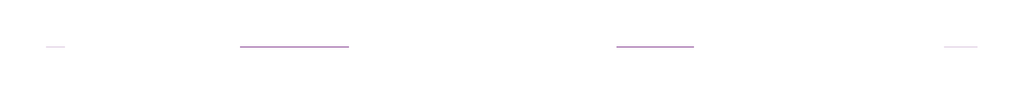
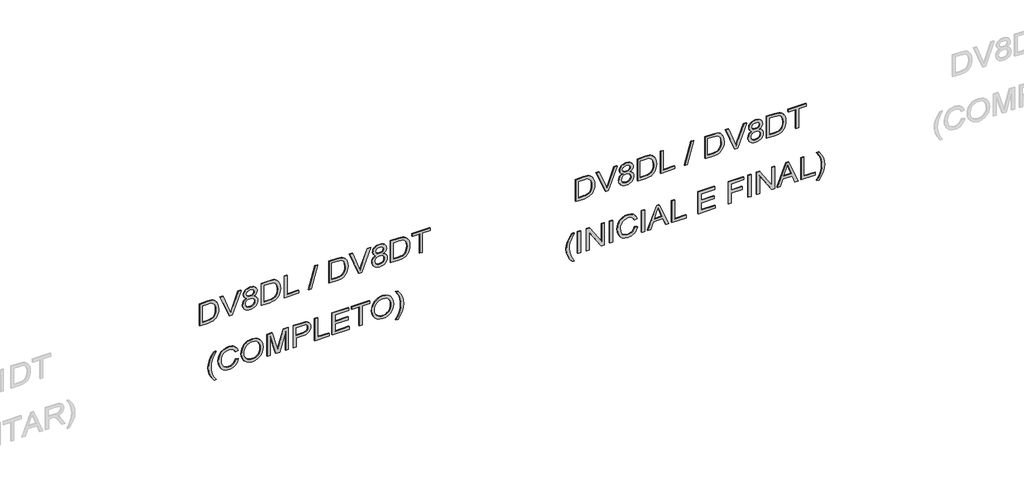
# One storey, part 3 of 7: 2 proxies.
"""IFC4 building model written with IfcOpenShell, lengths in millimetres."""

import ifcopenshell
import ifcopenshell.guid

model = None  # the IFC model being written
_history = None  # IfcOwnerHistory: only IFC2X3 demands one
_inside = {}  # id of a spatial element -> (the spatial element, [elements in it])
_under = {}  # id of a project, library or spatial element -> (it, [spatial elements below it])
_declared = {}  # id of a project -> (the project, [libraries it declares])
_typed = {}  # id of a type object -> (the type object, [elements of that type])
_made_of = {}  # id of a material, layer set ... -> (it, [elements and type objects made of it])


def new_model(schema):
    """Start an empty IFC model of exactly this schema.

    Asked for "IFC4X3", IfcOpenShell would pick the latest addendum, in which some entities
    have other attributes; the version numbers below select the first issue.
    IFC2X3 requires an IfcOwnerHistory on every rooted entity: one is made here for all.
    """
    global model, _history
    if schema == "IFC4X3":
        model = ifcopenshell.file(schema_version=(4, 3, 0, 0))
    else:
        model = ifcopenshell.file(schema=schema)
    _inside.clear()
    _under.clear()
    _declared.clear()
    _typed.clear()
    _made_of.clear()
    _history = None
    if model.schema == "IFC2X3":
        org = make("IfcOrganization", Name="unknown")
        user = make(
            "IfcPersonAndOrganization",
            ThePerson=make("IfcPerson", FamilyName="unknown"),
            TheOrganization=org,
        )
        app = make(
            "IfcApplication",
            ApplicationDeveloper=org,
            Version="unknown",
            ApplicationFullName="unknown",
            ApplicationIdentifier="unknown",
        )
        _history = make(
            "IfcOwnerHistory",
            OwningUser=user,
            OwningApplication=app,
            ChangeAction="ADDED",
            CreationDate=0,
        )
    return model


def make(cls, **values):
    """One entity of the class cls with the attributes given. An attribute that is None is left unset."""
    return model.create_entity(
        cls, **{name: value for name, value in values.items() if value is not None}
    )


def rooted(cls, **values):
    """An entity with a GlobalId (a new one), such as an element, a storey or a relation."""
    return make(cls, GlobalId=ifcopenshell.guid.new(), OwnerHistory=_history, **values)


def si_unit(unit_type, name, prefix=None):
    """IfcSIUnit, for example si_unit("LENGTHUNIT", "METRE", prefix="MILLI")."""
    return make("IfcSIUnit", UnitType=unit_type, Prefix=prefix, Name=name)


def assignment(units):
    """IfcUnitAssignment: the units of a project."""
    return None if units is None else make("IfcUnitAssignment", Units=units)


def point(xyz):
    """IfcCartesianPoint."""
    return None if xyz is None else make("IfcCartesianPoint", Coordinates=xyz)


def direction(xyz):
    """IfcDirection."""
    return None if xyz is None else make("IfcDirection", DirectionRatios=xyz)


def frame(location, z_axis=None, x_axis=None):
    """IfcAxis2Placement3D, a coordinate frame: its origin and axes. An axis left out is left unset."""
    return make(
        "IfcAxis2Placement3D",
        Location=point(location),
        Axis=direction(z_axis),
        RefDirection=direction(x_axis),
    )


def origin():
    """The frame at (0, 0, 0) with its axes left unset."""
    return frame((0.0, 0.0, 0.0))


def place(relative_to, where):
    """IfcLocalPlacement: puts the frame where relative to a parent placement (None: the world)."""
    return make(
        "IfcLocalPlacement", PlacementRelTo=relative_to, RelativePlacement=where
    )


def context(
    kind, dimensions, precision=None, world=None, true_north=None, identifier=None
):
    """IfcGeometricRepresentationContext, for example the 3D "Model" context."""
    return make(
        "IfcGeometricRepresentationContext",
        ContextIdentifier=identifier,
        ContextType=kind,
        CoordinateSpaceDimension=dimensions,
        Precision=precision,
        WorldCoordinateSystem=world,
        TrueNorth=true_north,
    )


def project(units=None, contexts=None):
    """IfcProject with its units and contexts."""
    return rooted(
        "IfcProject",
        Name="project",
        RepresentationContexts=contexts,
        UnitsInContext=assignment(units),
    )


def spatial(cls, under=None, at=None, **own):
    """A site, building, storey or space (cls), placed at a placement, below another one or the project."""
    s = rooted(cls, ObjectPlacement=at, **own)
    if under is not None:
        _under.setdefault(under.id(), (under, []))[1].append(s)
    return s


def polyline(points):
    """IfcPolyline through the points."""
    return make("IfcPolyline", Points=[point(p) for p in points])


def outline(outer, holes=None, kind="AREA"):
    """IfcArbitraryClosedProfileDef: a profile drawn as a closed curve; with holes, ...WithVoids."""
    if holes is None:
        return make("IfcArbitraryClosedProfileDef", ProfileType=kind, OuterCurve=outer)
    return make(
        "IfcArbitraryProfileDefWithVoids",
        ProfileType=kind,
        OuterCurve=outer,
        InnerCurves=holes,
    )


def extrude(swept, where, along, depth):
    """IfcExtrudedAreaSolid: the profile swept, set in the frame where, extruded along a direction by depth."""
    return make(
        "IfcExtrudedAreaSolid",
        SweptArea=swept,
        Position=where,
        ExtrudedDirection=direction(along),
        Depth=depth,
    )


def shape(context_of_items, identifier, shape_type, items):
    """IfcShapeRepresentation: the items that make up one representation, for example the "Body"."""
    return make(
        "IfcShapeRepresentation",
        ContextOfItems=context_of_items,
        RepresentationIdentifier=identifier,
        RepresentationType=shape_type,
        Items=items,
    )


def made_of(thing, what):
    """Note that an element or type object is made of a material, layer set ...; save() writes the relation."""
    if what is not None:
        _made_of.setdefault(what.id(), (what, []))[1].append(thing)
    return thing


def element(
    cls,
    number,
    at=None,
    inside=None,
    cuts=None,
    type_object=None,
    material=None,
    context=None,
    identifier="Body",
    shape_type=None,
    held_by="IfcProductDefinitionShape",
    body=None,
    shapes=None,
    **own,
):
    """One element of the class cls, such as IfcWall. Its Tag is "e" and its number.

    at: its placement. inside: the storey or other place that contains it. cuts: it is an
    opening in that element (IfcRelVoidsElement). A single representation is given by context,
    identifier, shape_type and body (its items); several are given by shapes. held_by: the class
    of the entity that holds the representations. save() writes the other relations.
    """
    e = rooted(cls, Tag="e%d" % number, ObjectPlacement=at, **own)
    if body is not None:
        shapes = [shape(context, identifier, shape_type, body)]
    if shapes is not None:
        e.Representation = make(held_by, Representations=shapes)
    if inside is not None:
        _inside.setdefault(inside.id(), (inside, []))[1].append(e)
    if cuts is not None:
        rooted(
            "IfcRelVoidsElement", RelatingBuildingElement=cuts, RelatedOpeningElement=e
        )
    if type_object is not None:
        _typed.setdefault(type_object.id(), (type_object, []))[1].append(e)
    return made_of(e, material)


def aggregate(whole, parts):
    """IfcRelAggregates: a whole, such as a stair, and the parts it consists of."""
    return rooted("IfcRelAggregates", RelatingObject=whole, RelatedObjects=parts)


def save(model, path):
    """Write the relations noted so far, then the file.

    IfcRelAggregates (storeys below a building ...), IfcRelContainedInSpatialStructure (elements
    in a storey), IfcRelDefinesByType, IfcRelAssociatesMaterial and IfcRelDeclares: one each for
    every whole, place, type object, material and project.
    """
    for whole, parts in _under.values():
        aggregate(whole, parts)
    for where, things in _inside.values():
        rooted(
            "IfcRelContainedInSpatialStructure",
            RelatedElements=things,
            RelatingStructure=where,
        )
    for kind, things in _typed.values():
        rooted("IfcRelDefinesByType", RelatedObjects=things, RelatingType=kind)
    for what, things in _made_of.values():
        rooted("IfcRelAssociatesMaterial", RelatedObjects=things, RelatingMaterial=what)
    for by, libraries in _declared.values():
        rooted("IfcRelDeclares", RelatingContext=by, RelatedDefinitions=libraries)
    model.write(path)


model = new_model("IFC4")

# Units and contexts
model_context = context("Model", 3, world=origin())
ifc_project = project(units=[si_unit("LENGTHUNIT", "METRE", prefix="MILLI")], contexts=[model_context])

# Site, building, storey
site = spatial("IfcSite", under=ifc_project)
building = spatial("IfcBuilding", under=site)
storey = spatial("IfcBuildingStorey", under=building, Name="02 - Marelli - Planta Baixa - Painel Duplo", Elevation=-12000.0)

# Proxies
placement = place(None, origin())
element("IfcBuildingElementProxy", 1, Name="300mm Arial", ObjectType="300mm Arial", at=placement, inside=storey, context=model_context, shape_type="SweptSolid", body=[
    extrude(outline(polyline([(-6049.0625952, 12377.5913018), (-6049.0625952, 12486.5579487), (-6043.9122473, 12535.0080075), (-6037.5570858, 12554.5517385), (-6028.7922972, 12571.0236548), (-6016.9740882, 12585.3710526), (-6001.458665, 12598.5412281), (-5981.8045694, 12609.9823581), (-5957.570343, 12619.1426198), (-5929.1054736, 12625.1574904), (-5896.7594492, 12627.1624473), (-5858.6836627, 12624.2009972), (-5825.0960365, 12615.316647), (-5796.5483937, 12600.4726085), (-5773.5925572, 12579.6320935), (-5760.4039877, 12559.3617956), (-5752.0346723, 12535.3391013), (-5747.6936647, 12481.5547536), (-5747.6936647, 12377.5913018), (-6049.0625952, 12377.5913018)]), holes=[polyline([(-6011.3914789, 12415.2624181), (-5785.364781, 12415.2624181), (-5785.364781, 12480.892566), (-5786.8730972, 12512.6407822), (-5791.3980458, 12534.3090317), (-5803.97961, 12555.6002022), (-5824.8017309, 12573.4148878), (-5855.1152073, 12585.4722202), (-5896.170838, 12589.491331), (-5927.155699, 12587.4403889), (-5953.155759, 12581.2875625), (-5974.2629885, 12571.4559162), (-5990.5693579, 12558.3685142), (-5999.3801317, 12546.1916201), (-6005.9468253, 12530.4094826), (-6010.0303155, 12509.4953911), (-6011.3914789, 12481.9226356), (-6011.3914789, 12415.2624181)])]), frame((0.0, 8778.3159498, 0.0), z_axis=(0.0, 1.0, 0.0), x_axis=(0.0, 0.0, 1.0)), (0.0, 0.0, 1.0), 10.0),
    extrude(outline(polyline([(-6049.0625952, 12767.987675), (-6049.0625952, 12806.9095901), (-5747.6936647, 12921.762349), (-5747.6936647, 12881.4424823), (-5964.8176183, 12800.9499018), (-6013.7459236, 12784.9102468), (-5964.8176183, 12768.6498626), (-5747.6936647, 12688.3780113), (-5747.6936647, 12648.0581446), (-6049.0625952, 12767.987675)])), frame((0.0, 8778.3159498, 0.0), z_axis=(0.0, 1.0, 0.0), x_axis=(0.0, 0.0, 1.0)), (0.0, 0.0, 1.0), 10.0),
    extrude(outline(polyline([(-5883.074239, 12997.54604), (-5893.5588758, 12974.2223215), (-5910.4446594, 12956.9318678), (-5932.9590375, 12946.2265017), (-5960.3294579, 12942.6580463), (-5979.4800151, 12944.3595006), (-5996.9797017, 12949.4638633), (-6012.8285179, 12957.9711344), (-6027.0264637, 12969.881314), (-6038.7274104, 12984.5690026), (-6047.0852295, 13001.408801), (-6052.0999209, 13020.400709), (-6053.7714847, 13041.5447266), (-6052.1068187, 13062.6887443), (-6047.1128206, 13081.6806523), (-6038.7894905, 13098.5204507), (-6027.1368283, 13113.2081393), (-6013.0377508, 13125.1183189), (-5997.3751749, 13133.62559), (-5980.1491004, 13138.7299527), (-5961.3595275, 13140.431407), (-5935.0099796, 13137.0009073), (-5912.6151632, 13126.7094085), (-5895.0212068, 13109.832822), (-5883.074239, 13086.6470593), (-5873.1690162, 13106.1723962), (-5859.7873087, 13120.0139562), (-5843.3521805, 13128.26371), (-5824.2866961, 13131.0136279), (-5808.8908346, 13129.4685235), (-5794.7089837, 13124.8332104), (-5781.7411434, 13117.1076885), (-5769.9873136, 13106.2919578), (-5760.2338422, 13092.9424399), (-5753.267077, 13077.6155563), (-5747.6936647, 13041.0296919), (-5753.1383183, 13004.6645566), (-5759.9441352, 12989.5032199), (-5769.4722788, 12976.3560371), (-5781.0007809, 12965.7334445), (-5793.8076728, 12958.1458783), (-5807.8929547, 12953.5933387), (-5823.2566265, 12952.0758254), (-5842.9567074, 12954.8625315), (-5859.6769441, 12963.2226499), (-5873.1414251, 12977.3769096), (-5883.074239, 12997.54604)]), holes=[polyline([(-5824.3602725, 12989.7469417), (-5809.4610517, 12993.1406531), (-5796.8426993, 13003.3217874), (-5788.2342606, 13019.664945), (-5785.364781, 13041.5447266), (-5788.29864, 13063.2865526), (-5797.1002167, 13079.6573013), (-5810.2060128, 13089.921209), (-5826.0525297, 13093.3425116), (-5841.3196325, 13090.0315736), (-5854.0115613, 13080.0987597), (-5862.5648177, 13063.9487402), (-5865.4159032, 13041.986185), (-5862.5464236, 13019.4993981), (-5853.9379849, 13003.1010582), (-5840.8045977, 12993.0854708), (-5824.3602725, 12989.7469417)]), polyline([(-5959.0050828, 12980.3291627), (-5937.0241336, 12984.3114852), (-5919.0530981, 12996.258453), (-5907.0785391, 13015.3055433), (-5903.0870195, 13040.5882335), (-5907.1337214, 13066.5239141), (-5919.2738273, 13086.2056009), (-5937.5943506, 13098.6216182), (-5960.1823051, 13102.7602906), (-5982.3931806, 13098.7503769), (-6000.3182308, 13086.7206357), (-6012.154834, 13067.4804073), (-6016.1003684, 13041.8390322), (-6014.2241702, 13025.1004015), (-6008.5955757, 13008.8768055), (-5999.5364816, 12995.329551), (-5987.3687846, 12986.6199448), (-5959.0050828, 12980.3291627)])]), frame((0.0, 8778.3159498, 0.0), z_axis=(0.0, 1.0, 0.0), x_axis=(0.0, 0.0, 1.0)), (0.0, 0.0, 1.0), 10.0),
    extrude(outline(polyline([(-6049.0625952, 13187.5203023), (-6049.0625952, 13296.4869493), (-6043.9122473, 13344.9370081), (-6037.5570858, 13364.4807391), (-6028.7922972, 13380.9526554), (-6016.9740882, 13395.3000532), (-6001.458665, 13408.4702286), (-5981.8045694, 13419.9113587), (-5957.570343, 13429.0716204), (-5929.1054736, 13435.086491), (-5896.7594492, 13437.0914479), (-5858.6836627, 13434.1299978), (-5825.0960365, 13425.2456476), (-5796.5483937, 13410.4016091), (-5773.5925572, 13389.5610941), (-5760.4039877, 13369.2907962), (-5752.0346723, 13345.2681019), (-5747.6936647, 13291.4837542), (-5747.6936647, 13187.5203023), (-6049.0625952, 13187.5203023)]), holes=[polyline([(-6011.3914789, 13225.1914186), (-5785.364781, 13225.1914186), (-5785.364781, 13290.8215666), (-5786.8730972, 13322.5697828), (-5791.3980458, 13344.2380323), (-5803.97961, 13365.5292028), (-5824.8017309, 13383.3438884), (-5855.1152073, 13395.4012208), (-5896.170838, 13399.4203316), (-5927.155699, 13397.3693894), (-5953.155759, 13391.2165631), (-5974.2629885, 13381.3849167), (-5990.5693579, 13368.2975148), (-5999.3801317, 13356.1206207), (-6005.9468253, 13340.3384831), (-6010.0303155, 13319.4243917), (-6011.3914789, 13291.8516362), (-6011.3914789, 13225.1914186)])]), frame((0.0, 8778.3159498, 0.0), z_axis=(0.0, 1.0, 0.0), x_axis=(0.0, 0.0, 1.0)), (0.0, 0.0, 1.0), 10.0),
    extrude(outline(polyline([(-6049.0625952, 13488.8892328), (-6049.0625952, 13677.2448143), (-6011.3914789, 13677.2448143), (-6011.3914789, 13526.5603491), (-5747.6936647, 13526.5603491), (-5747.6936647, 13488.8892328), (-6049.0625952, 13488.8892328)])), frame((0.0, 8778.3159498, 0.0), z_axis=(0.0, 1.0, 0.0), x_axis=(0.0, 0.0, 1.0)), (0.0, 0.0, 1.0), 10.0),
    extrude(outline(polyline([(-6049.0625952, 13804.3848318), (-6049.0625952, 13838.3771282), (-5747.6936647, 13923.1371399), (-5747.6936647, 13889.1448435), (-6049.0625952, 13804.3848318)])), frame((0.0, 8778.3159498, 0.0), z_axis=(0.0, 1.0, 0.0), x_axis=(0.0, 0.0, 1.0)), (0.0, 0.0, 1.0), 10.0),
    extrude(outline(polyline([(-6049.0625952, 14072.7915355), (-6049.0625952, 14181.7581825), (-6043.9122473, 14230.2082413), (-6037.5570858, 14249.7519723), (-6028.7922972, 14266.2238886), (-6016.9740882, 14280.5712864), (-6001.458665, 14293.7414618), (-5981.8045694, 14305.1825919), (-5957.570343, 14314.3428536), (-5929.1054736, 14320.3577242), (-5896.7594492, 14322.3626811), (-5858.6836627, 14319.401231), (-5825.0960365, 14310.5168808), (-5796.5483937, 14295.6728423), (-5773.5925572, 14274.8323273), (-5760.4039877, 14254.5620293), (-5752.0346723, 14230.5393351), (-5747.6936647, 14176.7549874), (-5747.6936647, 14072.7915355), (-6049.0625952, 14072.7915355)]), holes=[polyline([(-6011.3914789, 14110.4626518), (-5785.364781, 14110.4626518), (-5785.364781, 14176.0927998), (-5786.8730972, 14207.841016), (-5791.3980458, 14229.5092655), (-5803.97961, 14250.8004359), (-5824.8017309, 14268.6151216), (-5855.1152073, 14280.672454), (-5896.170838, 14284.6915648), (-5927.155699, 14282.6406226), (-5953.155759, 14276.4877963), (-5974.2629885, 14266.6561499), (-5990.5693579, 14253.568748), (-5999.3801317, 14241.3918539), (-6005.9468253, 14225.6097163), (-6010.0303155, 14204.6956249), (-6011.3914789, 14177.1228694), (-6011.3914789, 14110.4626518)])]), frame((0.0, 8778.3159498, 0.0), z_axis=(0.0, 1.0, 0.0), x_axis=(0.0, 0.0, 1.0)), (0.0, 0.0, 1.0), 10.0),
    extrude(outline(polyline([(-6049.0625952, 14463.1879088), (-6049.0625952, 14502.1098239), (-5747.6936647, 14616.9625828), (-5747.6936647, 14576.6427161), (-5964.8176183, 14496.1501356), (-6013.7459236, 14480.1104806), (-5964.8176183, 14463.8500964), (-5747.6936647, 14383.5782451), (-5747.6936647, 14343.2583784), (-6049.0625952, 14463.1879088)])), frame((0.0, 8778.3159498, 0.0), z_axis=(0.0, 1.0, 0.0), x_axis=(0.0, 0.0, 1.0)), (0.0, 0.0, 1.0), 10.0),
    extrude(outline(polyline([(-5883.074239, 14692.7462738), (-5893.5588758, 14669.4225553), (-5910.4446594, 14652.1321015), (-5932.9590375, 14641.4267355), (-5960.3294579, 14637.8582801), (-5979.4800151, 14639.5597343), (-5996.9797017, 14644.664097), (-6012.8285179, 14653.1713682), (-6027.0264637, 14665.0815478), (-6038.7274104, 14679.7692364), (-6047.0852295, 14696.6090348), (-6052.0999209, 14715.6009428), (-6053.7714847, 14736.7449604), (-6052.1068187, 14757.8889781), (-6047.1128206, 14776.8808861), (-6038.7894905, 14793.7206844), (-6027.1368283, 14808.4083731), (-6013.0377508, 14820.3185527), (-5997.3751749, 14828.8258238), (-5980.1491004, 14833.9301865), (-5961.3595275, 14835.6316407), (-5935.0099796, 14832.2011411), (-5912.6151632, 14821.9096423), (-5895.0212068, 14805.0330558), (-5883.074239, 14781.847293), (-5873.1690162, 14801.3726299), (-5859.7873087, 14815.21419), (-5843.3521805, 14823.4639437), (-5824.2866961, 14826.2138617), (-5808.8908346, 14824.6687573), (-5794.7089837, 14820.0334441), (-5781.7411434, 14812.3079222), (-5769.9873136, 14801.4921916), (-5760.2338422, 14788.1426737), (-5753.267077, 14772.8157901), (-5747.6936647, 14736.2299256), (-5753.1383183, 14699.8647904), (-5759.9441352, 14684.7034537), (-5769.4722788, 14671.5562709), (-5781.0007809, 14660.9336783), (-5793.8076728, 14653.3461121), (-5807.8929547, 14648.7935724), (-5823.2566265, 14647.2760592), (-5842.9567074, 14650.0627653), (-5859.6769441, 14658.4228837), (-5873.1414251, 14672.5771434), (-5883.074239, 14692.7462738)]), holes=[polyline([(-5824.3602725, 14684.9471755), (-5809.4610517, 14688.3408869), (-5796.8426993, 14698.5220211), (-5788.2342606, 14714.8651788), (-5785.364781, 14736.7449604), (-5788.29864, 14758.4867863), (-5797.1002167, 14774.8575351), (-5810.2060128, 14785.1214428), (-5826.0525297, 14788.5427453), (-5841.3196325, 14785.2318074), (-5854.0115613, 14775.2989935), (-5862.5648177, 14759.1489739), (-5865.4159032, 14737.1864188), (-5862.5464236, 14714.6996319), (-5853.9379849, 14698.3012919), (-5840.8045977, 14688.2857046), (-5824.3602725, 14684.9471755)]), polyline([(-5959.0050828, 14675.5293964), (-5937.0241336, 14679.511719), (-5919.0530981, 14691.4586868), (-5907.0785391, 14710.5057771), (-5903.0870195, 14735.7884672), (-5907.1337214, 14761.7241479), (-5919.2738273, 14781.4058346), (-5937.5943506, 14793.821852), (-5960.1823051, 14797.9605244), (-5982.3931806, 14793.9506107), (-6000.3182308, 14781.9208694), (-6012.154834, 14762.6806411), (-6016.1003684, 14737.039266), (-6014.2241702, 14720.3006352), (-6008.5955757, 14704.0770393), (-5999.5364816, 14690.5297848), (-5987.3687846, 14681.8201785), (-5959.0050828, 14675.5293964)])]), frame((0.0, 8778.3159498, 0.0), z_axis=(0.0, 1.0, 0.0), x_axis=(0.0, 0.0, 1.0)), (0.0, 0.0, 1.0), 10.0),
    extrude(outline(polyline([(-6049.0625952, 14882.7205361), (-6049.0625952, 14991.6871831), (-6043.9122473, 15040.1372418), (-6037.5570858, 15059.6809728), (-6028.7922972, 15076.1528892), (-6016.9740882, 15090.500287), (-6001.458665, 15103.6704624), (-5981.8045694, 15115.1115925), (-5957.570343, 15124.2718541), (-5929.1054736, 15130.2867248), (-5896.7594492, 15132.2916816), (-5858.6836627, 15129.3302316), (-5825.0960365, 15120.4458814), (-5796.5483937, 15105.6018429), (-5773.5925572, 15084.7613279), (-5760.4039877, 15064.4910299), (-5752.0346723, 15040.4683356), (-5747.6936647, 14986.6839879), (-5747.6936647, 14882.7205361), (-6049.0625952, 14882.7205361)]), holes=[polyline([(-6011.3914789, 14920.3916524), (-5785.364781, 14920.3916524), (-5785.364781, 14986.0218004), (-5786.8730972, 15017.7700165), (-5791.3980458, 15039.4382661), (-5803.97961, 15060.7294365), (-5824.8017309, 15078.5441221), (-5855.1152073, 15090.6014545), (-5896.170838, 15094.6205653), (-5927.155699, 15092.5696232), (-5953.155759, 15086.4167968), (-5974.2629885, 15076.5851505), (-5990.5693579, 15063.4977485), (-5999.3801317, 15051.3208545), (-6005.9468253, 15035.5387169), (-6010.0303155, 15014.6246255), (-6011.3914789, 14987.0518699), (-6011.3914789, 14920.3916524)])]), frame((0.0, 8778.3159498, 0.0), z_axis=(0.0, 1.0, 0.0), x_axis=(0.0, 0.0, 1.0)), (0.0, 0.0, 1.0), 10.0),
    extrude(outline(polyline([(-6049.0625952, 15259.4316992), (-6049.0625952, 15297.1028155), (-5785.364781, 15297.1028155), (-5785.364781, 15395.9894958), (-5747.6936647, 15395.9894958), (-5747.6936647, 15160.5450189), (-5785.364781, 15160.5450189), (-5785.364781, 15259.4316992), (-6049.0625952, 15259.4316992)])), frame((0.0, 8778.3159498, 0.0), z_axis=(0.0, 1.0, 0.0), x_axis=(0.0, 0.0, 1.0)), (0.0, 0.0, 1.0), 10.0),
    extrude(outline(polyline([(-6865.6715139, 12565.9468833), (-6865.6715139, 12594.2002205), (-6817.4329873, 12565.3582721), (-6769.1760666, 12544.7568804), (-6720.9007518, 12532.3960453), (-6672.6070429, 12528.275767), (-6634.7335915, 12530.6486058), (-6597.0440811, 12537.7671225), (-6539.2130314, 12558.9571254), (-6479.5425718, 12594.2002205), (-6479.5425718, 12565.9468833), (-6530.0527697, 12531.2556111), (-6580.7836969, 12506.9386113), (-6625.5733298, 12494.6881408), (-6672.3863137, 12490.6046507), (-6725.7659912, 12496.0676983), (-6777.3062587, 12512.4568412), (-6824.7078538, 12536.755447), (-6865.6715139, 12565.9468833)])), frame((0.0, 8778.3159498, 0.0), z_axis=(0.0, 1.0, 0.0), x_axis=(0.0, 0.0, 1.0)), (0.0, 0.0, 1.0), 10.0),
    extrude(outline(polyline([(-6673.7842653, 12848.4802556), (-6706.0475162, 12836.2941645), (-6729.2608701, 12816.5113102), (-6743.2771741, 12790.3089151), (-6747.9492755, 12758.8642016), (-6744.5187759, 12731.8892543), (-6734.2272771, 12706.8824756), (-6717.0012026, 12686.0235665), (-6692.7669762, 12671.4922277), (-6662.674229, 12662.9665625), (-6627.8725923, 12660.1246741), (-6599.4537081, 12662.5251041), (-6571.8809526, 12669.7263941), (-6547.4903763, 12682.8505843), (-6528.61803, 12703.0197147), (-6516.5331064, 12729.5991888), (-6512.5047986, 12761.9544103), (-6516.1376333, 12790.0238065), (-6527.0361374, 12812.8692784), (-6545.8808926, 12830.7115552), (-6573.3524806, 12843.771366), (-6564.3761599, 12881.4424823), (-6526.5578908, 12864.8050191), (-6511.2356057, 12853.0029049), (-6498.3045536, 12838.8785355), (-6488.0360474, 12822.6986255), (-6480.7014001, 12804.7298893), (-6474.8336823, 12763.4259383), (-6479.3678279, 12725.570881), (-6492.9702646, 12691.0267616), (-6515.3098988, 12661.8997047), (-6546.0556365, 12640.2958345), (-6584.0026643, 12626.9141269), (-6627.9461687, 12622.4535577), (-6669.6088046, 12626.3990921), (-6708.5123256, 12638.2356953), (-6741.6033111, 12657.6230765), (-6765.8283405, 12684.2209447), (-6780.672379, 12718.9214139), (-6785.6203918, 12762.6165979), (-6783.9856162, 12785.0390055), (-6779.0812893, 12805.6587913), (-6770.9074112, 12824.4759554), (-6759.4639819, 12841.4904977), (-6744.9073512, 12856.3667259), (-6727.393869, 12868.7689476), (-6706.9235352, 12878.697163), (-6683.4963499, 12886.1513719), (-6673.7842653, 12848.4802556)])), frame((0.0, 8778.3159498, 0.0), z_axis=(0.0, 1.0, 0.0), x_axis=(0.0, 0.0, 1.0)), (0.0, 0.0, 1.0), 10.0),
    extrude(outline(polyline([(-6634.2001626, 12923.8224882), (-6672.7449986, 12928.1267075), (-6709.2113014, 12941.0393656), (-6740.9043353, 12962.3029449), (-6765.1293647, 12991.6599281), (-6780.497635, 13027.3076934), (-6785.6203918, 13067.4436191), (-6780.9850787, 13105.2526912), (-6767.0791392, 13140.3946188), (-6744.1600909, 13170.3586073), (-6712.4854512, 13192.6338621), (-6674.0233886, 13206.457028), (-6630.7420718, 13211.06475), (-6588.0309722, 13206.6869543), (-6550.1023385, 13193.5535671), (-6518.482881, 13172.0692585), (-6494.69931, 13142.6386989), (-6479.8000892, 13107.1932687), (-6474.8336823, 13067.6643483), (-6477.4778341, 13037.3738645), (-6485.4102896, 13009.9988456), (-6498.6310488, 12985.5392914), (-6517.1401117, 12963.9952021), (-6540.3212759, 12946.4196397), (-6567.5583392, 12933.8656667), (-6598.8513014, 12926.3332828), (-6634.2001626, 12923.8224882)]), holes=[polyline([(-6634.5680446, 12961.4936045), (-6604.0315397, 12963.4571746), (-6578.1993259, 12969.3478851), (-6557.071403, 12979.1657358), (-6540.6477712, 12992.9107269), (-6528.3352207, 13009.3780447), (-6519.5405417, 13027.3628757), (-6514.2637344, 13046.86522), (-6512.5047986, 13067.8850775), (-6516.1560274, 13097.0489227), (-6527.1097138, 13123.1777414), (-6544.7036702, 13144.8367938), (-6568.275709, 13160.5913403), (-6597.0992634, 13170.1930604), (-6630.4477662, 13173.3936337), (-6656.9858537, 13171.5243333), (-6680.3141707, 13165.9164322), (-6700.4327173, 13156.5699302), (-6717.3414935, 13143.4848275), (-6730.7323981, 13127.5026541), (-6740.29733, 13109.46494), (-6746.0362891, 13089.3716853), (-6747.9492755, 13067.2228899), (-6746.0546832, 13045.4465751), (-6740.3709064, 13025.5878451), (-6730.897945, 13007.6467001), (-6717.6357991, 12991.6231399), (-6701.0765108, 12978.4414682), (-6681.7121223, 12969.0259884), (-6659.5426335, 12963.3767005), (-6634.5680446, 12961.4936045)])]), frame((0.0, 8778.3159498, 0.0), z_axis=(0.0, 1.0, 0.0), x_axis=(0.0, 0.0, 1.0)), (0.0, 0.0, 1.0), 10.0),
    extrude(outline(polyline([(-6780.9115023, 13262.8625349), (-6780.9115023, 13300.5336513), (-6517.2136881, 13300.5336513), (-6780.9115023, 13376.2437659), (-6780.9115023, 13427.3057868), (-6517.2136881, 13503.0159014), (-6780.9115023, 13503.0159014), (-6780.9115023, 13540.6870177), (-6479.5425718, 13540.6870177), (-6479.5425718, 13475.8662102), (-6688.2788159, 13415.2392574), (-6736.3242044, 13401.7747763), (-6691.9576358, 13389.3403649), (-6479.5425718, 13327.6833425), (-6479.5425718, 13262.8625349), (-6780.9115023, 13262.8625349)])), frame((0.0, 8778.3159498, 0.0), z_axis=(0.0, 1.0, 0.0), x_axis=(0.0, 0.0, 1.0)), (0.0, 0.0, 1.0), 10.0),
    extrude(outline(polyline([(-6780.9115023, 13606.6114712), (-6780.9115023, 13644.2825875), (-6658.4803743, 13644.2825875), (-6658.4803743, 13720.8756189), (-6656.8157082, 13750.073953), (-6651.8217101, 13774.3932522), (-6643.49838, 13793.8335164), (-6631.8457178, 13808.3947456), (-6617.7880271, 13819.0012434), (-6602.2496113, 13826.5773132), (-6585.2304705, 13831.1229551), (-6566.7306047, 13832.6381691), (-6545.2738873, 13830.3940889), (-6525.6381858, 13823.6618484), (-6508.9915255, 13813.2415909), (-6496.5019318, 13799.9334597), (-6487.7739314, 13783.4063611), (-6482.4120514, 13763.3292012), (-6479.5425718, 13718.300445), (-6479.5425718, 13606.6114712), (-6780.9115023, 13606.6114712)]), holes=[polyline([(-6620.809258, 13644.2825875), (-6517.2136881, 13644.2825875), (-6517.2136881, 13722.1999941), (-6519.7888621, 13759.8711104), (-6526.1164324, 13774.0989466), (-6536.8585867, 13785.2917563), (-6551.1324081, 13792.5482287), (-6568.0549798, 13794.9670528), (-6590.3302347, 13790.8651685), (-6606.9768949, 13778.5595158), (-6617.3511672, 13756.4865961), (-6620.809258, 13723.0829109), (-6620.809258, 13644.2825875)])]), frame((0.0, 8778.3159498, 0.0), z_axis=(0.0, 1.0, 0.0), x_axis=(0.0, 0.0, 1.0)), (0.0, 0.0, 1.0), 10.0),
    extrude(outline(polyline([(-6780.9115023, 13884.435954), (-6780.9115023, 14072.7915355), (-6743.2403859, 14072.7915355), (-6743.2403859, 13922.1070703), (-6479.5425718, 13922.1070703), (-6479.5425718, 13884.435954), (-6780.9115023, 13884.435954)])), frame((0.0, 8778.3159498, 0.0), z_axis=(0.0, 1.0, 0.0), x_axis=(0.0, 0.0, 1.0)), (0.0, 0.0, 1.0), 10.0),
    extrude(outline(polyline([(-6780.9115023, 14115.1715414), (-6780.9115023, 14336.4893497), (-6743.2403859, 14336.4893497), (-6743.2403859, 14152.8426577), (-6644.3537056, 14152.8426577), (-6644.3537056, 14322.3626811), (-6606.6825893, 14322.3626811), (-6606.6825893, 14152.8426577), (-6517.2136881, 14152.8426577), (-6517.2136881, 14331.7804601), (-6479.5425718, 14331.7804601), (-6479.5425718, 14115.1715414), (-6780.9115023, 14115.1715414)])), frame((0.0, 8778.3159498, 0.0), z_axis=(0.0, 1.0, 0.0), x_axis=(0.0, 0.0, 1.0)), (0.0, 0.0, 1.0), 10.0),
    extrude(outline(polyline([(-6780.9115023, 14468.3382567), (-6780.9115023, 14506.009373), (-6517.2136881, 14506.009373), (-6517.2136881, 14604.8960534), (-6479.5425718, 14604.8960534), (-6479.5425718, 14369.4515764), (-6517.2136881, 14369.4515764), (-6517.2136881, 14468.3382567), (-6780.9115023, 14468.3382567)])), frame((0.0, 8778.3159498, 0.0), z_axis=(0.0, 1.0, 0.0), x_axis=(0.0, 0.0, 1.0)), (0.0, 0.0, 1.0), 10.0),
    extrude(outline(polyline([(-6634.2001626, 14633.1493906), (-6672.7449986, 14637.4536099), (-6709.2113014, 14650.366268), (-6740.9043353, 14671.6298473), (-6765.1293647, 14700.9868305), (-6780.497635, 14736.6345958), (-6785.6203918, 14776.7705215), (-6780.9850787, 14814.5795936), (-6767.0791392, 14849.7215211), (-6744.1600909, 14879.6855097), (-6712.4854512, 14901.9607645), (-6674.0233886, 14915.7839304), (-6630.7420718, 14920.3916524), (-6588.0309722, 14916.0138567), (-6550.1023385, 14902.8804694), (-6518.482881, 14881.3961609), (-6494.69931, 14851.9656013), (-6479.8000892, 14816.5201711), (-6474.8336823, 14776.9912507), (-6477.4778341, 14746.7007669), (-6485.4102896, 14719.325748), (-6498.6310488, 14694.8661938), (-6517.1401117, 14673.3221045), (-6540.3212759, 14655.7465421), (-6567.5583392, 14643.1925691), (-6598.8513014, 14635.6601852), (-6634.2001626, 14633.1493906)]), holes=[polyline([(-6634.5680446, 14670.8205069), (-6604.0315397, 14672.784077), (-6578.1993259, 14678.6747875), (-6557.071403, 14688.4926382), (-6540.6477712, 14702.2376293), (-6528.3352207, 14718.7049471), (-6519.5405417, 14736.6897781), (-6514.2637344, 14756.1921224), (-6512.5047986, 14777.2119799), (-6516.1560274, 14806.3758251), (-6527.1097138, 14832.5046438), (-6544.7036702, 14854.1636962), (-6568.275709, 14869.9182427), (-6597.0992634, 14879.5199628), (-6630.4477662, 14882.7205361), (-6656.9858537, 14880.8512357), (-6680.3141707, 14875.2433346), (-6700.4327173, 14865.8968326), (-6717.3414935, 14852.8117299), (-6730.7323981, 14836.8295565), (-6740.29733, 14818.7918424), (-6746.0362891, 14798.6985877), (-6747.9492755, 14776.5497923), (-6746.0546832, 14754.7734775), (-6740.3709064, 14734.9147475), (-6730.897945, 14716.9736024), (-6717.6357991, 14700.9500423), (-6701.0765108, 14687.7683706), (-6681.7121223, 14678.3528907), (-6659.5426335, 14672.7036029), (-6634.5680446, 14670.8205069)])]), frame((0.0, 8778.3159498, 0.0), z_axis=(0.0, 1.0, 0.0), x_axis=(0.0, 0.0, 1.0)), (0.0, 0.0, 1.0), 10.0),
    extrude(outline(polyline([(-6865.6715139, 14976.8983269), (-6824.7078538, 15005.9518074), (-6777.3062587, 15030.2780044), (-6725.7659912, 15046.7499207), (-6672.3863137, 15052.2405595), (-6625.5733298, 15048.1570693), (-6580.7836969, 15035.9065989), (-6530.0527697, 15011.589599), (-6479.5425718, 14976.8983269), (-6479.5425718, 14948.6449896), (-6539.8016426, 14984.108814), (-6568.1469503, 14996.0833729), (-6597.7062687, 15005.0780877), (-6635.009503, 15012.1966043), (-6672.6070429, 15014.5694432), (-6720.9007518, 15010.4491648), (-6769.1760666, 14998.0883298), (-6817.4329873, 14977.4869381), (-6865.6715139, 14948.6449896), (-6865.6715139, 14976.8983269)])), frame((0.0, 8778.3159498, 0.0), z_axis=(0.0, 1.0, 0.0), x_axis=(0.0, 0.0, 1.0)), (0.0, 0.0, 1.0), 10.0),
])
element("IfcBuildingElementProxy", 2, Name="300mm Arial", ObjectType="300mm Arial", at=placement, inside=storey, context=model_context, shape_type="SweptSolid", body=[
    extrude(outline(polyline([(-6049.0625952, 17304.6035139), (-6049.0625952, 17413.5701609), (-6043.9122473, 17462.0202196), (-6037.5570858, 17481.5639506), (-6028.7922972, 17498.035867), (-6016.9740882, 17512.3832648), (-6001.458665, 17525.5534402), (-5981.8045694, 17536.9945703), (-5957.570343, 17546.1548319), (-5929.1054736, 17552.1697026), (-5896.7594492, 17554.1746594), (-5858.6836627, 17551.2132094), (-5825.0960365, 17542.3288592), (-5796.5483937, 17527.4848207), (-5773.5925572, 17506.6443057), (-5760.4039877, 17486.3740077), (-5752.0346723, 17462.3513134), (-5747.6936647, 17408.5669657), (-5747.6936647, 17304.6035139), (-6049.0625952, 17304.6035139)]), holes=[polyline([(-6011.3914789, 17342.2746302), (-5785.364781, 17342.2746302), (-5785.364781, 17407.9047782), (-5786.8730972, 17439.6529943), (-5791.3980458, 17461.3212439), (-5803.97961, 17482.6124143), (-5824.8017309, 17500.4270999), (-5855.1152073, 17512.4844323), (-5896.170838, 17516.5035431), (-5927.155699, 17514.452601), (-5953.155759, 17508.2997746), (-5974.2629885, 17498.4681283), (-5990.5693579, 17485.3807263), (-5999.3801317, 17473.2038323), (-6005.9468253, 17457.4216947), (-6010.0303155, 17436.5076033), (-6011.3914789, 17408.9348477), (-6011.3914789, 17342.2746302)])]), frame((0.0, 8778.3159498, 0.0), z_axis=(0.0, 1.0, 0.0), x_axis=(0.0, 0.0, 1.0)), (0.0, 0.0, 1.0), 10.0),
    extrude(outline(polyline([(-6049.0625952, 17694.9998872), (-6049.0625952, 17733.9218023), (-5747.6936647, 17848.7745612), (-5747.6936647, 17808.4546945), (-5964.8176183, 17727.962114), (-6013.7459236, 17711.922459), (-5964.8176183, 17695.6620748), (-5747.6936647, 17615.3902234), (-5747.6936647, 17575.0703568), (-6049.0625952, 17694.9998872)])), frame((0.0, 8778.3159498, 0.0), z_axis=(0.0, 1.0, 0.0), x_axis=(0.0, 0.0, 1.0)), (0.0, 0.0, 1.0), 10.0),
    extrude(outline(polyline([(-5883.074239, 17924.5582522), (-5893.5588758, 17901.2345337), (-5910.4446594, 17883.9440799), (-5932.9590375, 17873.2387139), (-5960.3294579, 17869.6702585), (-5979.4800151, 17871.3717127), (-5996.9797017, 17876.4760754), (-6012.8285179, 17884.9833466), (-6027.0264637, 17896.8935261), (-6038.7274104, 17911.5812148), (-6047.0852295, 17928.4210131), (-6052.0999209, 17947.4129211), (-6053.7714847, 17968.5569388), (-6052.1068187, 17989.7009565), (-6047.1128206, 18008.6928645), (-6038.7894905, 18025.5326628), (-6027.1368283, 18040.2203515), (-6013.0377508, 18052.1305311), (-5997.3751749, 18060.6378022), (-5980.1491004, 18065.7421649), (-5961.3595275, 18067.4436191), (-5935.0099796, 18064.0131195), (-5912.6151632, 18053.7216207), (-5895.0212068, 18036.8450342), (-5883.074239, 18013.6592714), (-5873.1690162, 18033.1846083), (-5859.7873087, 18047.0261684), (-5843.3521805, 18055.2759221), (-5824.2866961, 18058.02584), (-5808.8908346, 18056.4807357), (-5794.7089837, 18051.8454225), (-5781.7411434, 18044.1199006), (-5769.9873136, 18033.30417), (-5760.2338422, 18019.9546521), (-5753.267077, 18004.6277684), (-5747.6936647, 17968.041904), (-5753.1383183, 17931.6767688), (-5759.9441352, 17916.5154321), (-5769.4722788, 17903.3682493), (-5781.0007809, 17892.7456567), (-5793.8076728, 17885.1580905), (-5807.8929547, 17880.6055508), (-5823.2566265, 17879.0880376), (-5842.9567074, 17881.8747437), (-5859.6769441, 17890.234862), (-5873.1414251, 17904.3891218), (-5883.074239, 17924.5582522)]), holes=[polyline([(-5824.3602725, 17916.7591539), (-5809.4610517, 17920.1528653), (-5796.8426993, 17930.3339995), (-5788.2342606, 17946.6771571), (-5785.364781, 17968.5569388), (-5788.29864, 17990.2987647), (-5797.1002167, 18006.6695135), (-5810.2060128, 18016.9334212), (-5826.0525297, 18020.3547237), (-5841.3196325, 18017.0437858), (-5854.0115613, 18007.1109719), (-5862.5648177, 17990.9609523), (-5865.4159032, 17968.9983972), (-5862.5464236, 17946.5116102), (-5853.9379849, 17930.1132703), (-5840.8045977, 17920.097683), (-5824.3602725, 17916.7591539)]), polyline([(-5959.0050828, 17907.3413748), (-5937.0241336, 17911.3236974), (-5919.0530981, 17923.2706652), (-5907.0785391, 17942.3177555), (-5903.0870195, 17967.6004456), (-5907.1337214, 17993.5361263), (-5919.2738273, 18013.217813), (-5937.5943506, 18025.6338304), (-5960.1823051, 18029.7725028), (-5982.3931806, 18025.7625891), (-6000.3182308, 18013.7328478), (-6012.154834, 17994.4926195), (-6016.1003684, 17968.8512444), (-6014.2241702, 17952.1126136), (-6008.5955757, 17935.8890176), (-5999.5364816, 17922.3417632), (-5987.3687846, 17913.6321569), (-5959.0050828, 17907.3413748)])]), frame((0.0, 8778.3159498, 0.0), z_axis=(0.0, 1.0, 0.0), x_axis=(0.0, 0.0, 1.0)), (0.0, 0.0, 1.0), 10.0),
    extrude(outline(polyline([(-6049.0625952, 18114.5325145), (-6049.0625952, 18223.4991615), (-6043.9122473, 18271.9492202), (-6037.5570858, 18291.4929512), (-6028.7922972, 18307.9648676), (-6016.9740882, 18322.3122654), (-6001.458665, 18335.4824408), (-5981.8045694, 18346.9235708), (-5957.570343, 18356.0838325), (-5929.1054736, 18362.0987031), (-5896.7594492, 18364.10366), (-5858.6836627, 18361.14221), (-5825.0960365, 18352.2578598), (-5796.5483937, 18337.4138213), (-5773.5925572, 18316.5733062), (-5760.4039877, 18296.3030083), (-5752.0346723, 18272.280314), (-5747.6936647, 18218.4959663), (-5747.6936647, 18114.5325145), (-6049.0625952, 18114.5325145)]), holes=[polyline([(-6011.3914789, 18152.2036308), (-5785.364781, 18152.2036308), (-5785.364781, 18217.8337787), (-5786.8730972, 18249.5819949), (-5791.3980458, 18271.2502444), (-5803.97961, 18292.5414149), (-5824.8017309, 18310.3561005), (-5855.1152073, 18322.4134329), (-5896.170838, 18326.4325437), (-5927.155699, 18324.3816016), (-5953.155759, 18318.2287752), (-5974.2629885, 18308.3971289), (-5990.5693579, 18295.3097269), (-5999.3801317, 18283.1328329), (-6005.9468253, 18267.3506953), (-6010.0303155, 18246.4366039), (-6011.3914789, 18218.8638483), (-6011.3914789, 18152.2036308)])]), frame((0.0, 8778.3159498, 0.0), z_axis=(0.0, 1.0, 0.0), x_axis=(0.0, 0.0, 1.0)), (0.0, 0.0, 1.0), 10.0),
    extrude(outline(polyline([(-6049.0625952, 18415.9014449), (-6049.0625952, 18604.2570265), (-6011.3914789, 18604.2570265), (-6011.3914789, 18453.5725612), (-5747.6936647, 18453.5725612), (-5747.6936647, 18415.9014449), (-6049.0625952, 18415.9014449)])), frame((0.0, 8778.3159498, 0.0), z_axis=(0.0, 1.0, 0.0), x_axis=(0.0, 0.0, 1.0)), (0.0, 0.0, 1.0), 10.0),
    extrude(outline(polyline([(-6049.0625952, 18731.397044), (-6049.0625952, 18765.3893404), (-5747.6936647, 18850.149352), (-5747.6936647, 18816.1570557), (-6049.0625952, 18731.397044)])), frame((0.0, 8778.3159498, 0.0), z_axis=(0.0, 1.0, 0.0), x_axis=(0.0, 0.0, 1.0)), (0.0, 0.0, 1.0), 10.0),
    extrude(outline(polyline([(-6049.0625952, 18999.8037477), (-6049.0625952, 19108.7703947), (-6043.9122473, 19157.2204534), (-6037.5570858, 19176.7641844), (-6028.7922972, 19193.2361007), (-6016.9740882, 19207.5834986), (-6001.458665, 19220.753674), (-5981.8045694, 19232.194804), (-5957.570343, 19241.3550657), (-5929.1054736, 19247.3699363), (-5896.7594492, 19249.3748932), (-5858.6836627, 19246.4134432), (-5825.0960365, 19237.529093), (-5796.5483937, 19222.6850545), (-5773.5925572, 19201.8445394), (-5760.4039877, 19181.5742415), (-5752.0346723, 19157.5515472), (-5747.6936647, 19103.7671995), (-5747.6936647, 18999.8037477), (-6049.0625952, 18999.8037477)]), holes=[polyline([(-6011.3914789, 19037.474864), (-5785.364781, 19037.474864), (-5785.364781, 19103.1050119), (-5786.8730972, 19134.8532281), (-5791.3980458, 19156.5214776), (-5803.97961, 19177.8126481), (-5824.8017309, 19195.6273337), (-5855.1152073, 19207.6846661), (-5896.170838, 19211.7037769), (-5927.155699, 19209.6528348), (-5953.155759, 19203.5000084), (-5974.2629885, 19193.6683621), (-5990.5693579, 19180.5809601), (-5999.3801317, 19168.4040661), (-6005.9468253, 19152.6219285), (-6010.0303155, 19131.7078371), (-6011.3914789, 19104.1350815), (-6011.3914789, 19037.474864)])]), frame((0.0, 8778.3159498, 0.0), z_axis=(0.0, 1.0, 0.0), x_axis=(0.0, 0.0, 1.0)), (0.0, 0.0, 1.0), 10.0),
    extrude(outline(polyline([(-6049.0625952, 19390.200121), (-6049.0625952, 19429.1220361), (-5747.6936647, 19543.974795), (-5747.6936647, 19503.6549283), (-5964.8176183, 19423.1623477), (-6013.7459236, 19407.1226927), (-5964.8176183, 19390.8623086), (-5747.6936647, 19310.5904572), (-5747.6936647, 19270.2705905), (-6049.0625952, 19390.200121)])), frame((0.0, 8778.3159498, 0.0), z_axis=(0.0, 1.0, 0.0), x_axis=(0.0, 0.0, 1.0)), (0.0, 0.0, 1.0), 10.0),
    extrude(outline(polyline([(-5883.074239, 19619.758486), (-5893.5588758, 19596.4347675), (-5910.4446594, 19579.1443137), (-5932.9590375, 19568.4389476), (-5960.3294579, 19564.8704923), (-5979.4800151, 19566.5719465), (-5996.9797017, 19571.6763092), (-6012.8285179, 19580.1835803), (-6027.0264637, 19592.0937599), (-6038.7274104, 19606.7814486), (-6047.0852295, 19623.6212469), (-6052.0999209, 19642.6131549), (-6053.7714847, 19663.7571726), (-6052.1068187, 19684.9011903), (-6047.1128206, 19703.8930983), (-6038.7894905, 19720.7328966), (-6027.1368283, 19735.4205852), (-6013.0377508, 19747.3307648), (-5997.3751749, 19755.838036), (-5980.1491004, 19760.9423987), (-5961.3595275, 19762.6438529), (-5935.0099796, 19759.2133533), (-5912.6151632, 19748.9218545), (-5895.0212068, 19732.0452679), (-5883.074239, 19708.8595052), (-5873.1690162, 19728.3848421), (-5859.7873087, 19742.2264022), (-5843.3521805, 19750.4761559), (-5824.2866961, 19753.2260738), (-5808.8908346, 19751.6809694), (-5794.7089837, 19747.0456563), (-5781.7411434, 19739.3201344), (-5769.9873136, 19728.5044037), (-5760.2338422, 19715.1548858), (-5753.267077, 19699.8280022), (-5747.6936647, 19663.2421378), (-5753.1383183, 19626.8770026), (-5759.9441352, 19611.7156658), (-5769.4722788, 19598.568483), (-5781.0007809, 19587.9458904), (-5793.8076728, 19580.3583243), (-5807.8929547, 19575.8057846), (-5823.2566265, 19574.2882714), (-5842.9567074, 19577.0749775), (-5859.6769441, 19585.4350958), (-5873.1414251, 19599.5893556), (-5883.074239, 19619.758486)]), holes=[polyline([(-5824.3602725, 19611.9593877), (-5809.4610517, 19615.3530991), (-5796.8426993, 19625.5342333), (-5788.2342606, 19641.8773909), (-5785.364781, 19663.7571726), (-5788.29864, 19685.4989985), (-5797.1002167, 19701.8697473), (-5810.2060128, 19712.1336549), (-5826.0525297, 19715.5549575), (-5841.3196325, 19712.2440195), (-5854.0115613, 19702.3112057), (-5862.5648177, 19686.1611861), (-5865.4159032, 19664.198631), (-5862.5464236, 19641.711844), (-5853.9379849, 19625.3135041), (-5840.8045977, 19615.2979168), (-5824.3602725, 19611.9593877)]), polyline([(-5959.0050828, 19602.5416086), (-5937.0241336, 19606.5239312), (-5919.0530981, 19618.470899), (-5907.0785391, 19637.5179893), (-5903.0870195, 19662.8006794), (-5907.1337214, 19688.7363601), (-5919.2738273, 19708.4180468), (-5937.5943506, 19720.8340641), (-5960.1823051, 19724.9727366), (-5982.3931806, 19720.9628228), (-6000.3182308, 19708.9330816), (-6012.154834, 19689.6928532), (-6016.1003684, 19664.0514782), (-6014.2241702, 19647.3128474), (-6008.5955757, 19631.0892514), (-5999.5364816, 19617.5419969), (-5987.3687846, 19608.8323907), (-5959.0050828, 19602.5416086)])]), frame((0.0, 8778.3159498, 0.0), z_axis=(0.0, 1.0, 0.0), x_axis=(0.0, 0.0, 1.0)), (0.0, 0.0, 1.0), 10.0),
    extrude(outline(polyline([(-6049.0625952, 19809.7327483), (-6049.0625952, 19918.6993952), (-6043.9122473, 19967.149454), (-6037.5570858, 19986.693185), (-6028.7922972, 20003.1651013), (-6016.9740882, 20017.5124991), (-6001.458665, 20030.6826746), (-5981.8045694, 20042.1238046), (-5957.570343, 20051.2840663), (-5929.1054736, 20057.2989369), (-5896.7594492, 20059.3038938), (-5858.6836627, 20056.3424437), (-5825.0960365, 20047.4580936), (-5796.5483937, 20032.614055), (-5773.5925572, 20011.77354), (-5760.4039877, 19991.5032421), (-5752.0346723, 19967.4805478), (-5747.6936647, 19913.6962001), (-5747.6936647, 19809.7327483), (-6049.0625952, 19809.7327483)]), holes=[polyline([(-6011.3914789, 19847.4038646), (-5785.364781, 19847.4038646), (-5785.364781, 19913.0340125), (-5786.8730972, 19944.7822287), (-5791.3980458, 19966.4504782), (-5803.97961, 19987.7416487), (-5824.8017309, 20005.5563343), (-5855.1152073, 20017.6136667), (-5896.170838, 20021.6327775), (-5927.155699, 20019.5818354), (-5953.155759, 20013.429009), (-5974.2629885, 20003.5973627), (-5990.5693579, 19990.5099607), (-5999.3801317, 19978.3330667), (-6005.9468253, 19962.5509291), (-6010.0303155, 19941.6368376), (-6011.3914789, 19914.0640821), (-6011.3914789, 19847.4038646)])]), frame((0.0, 8778.3159498, 0.0), z_axis=(0.0, 1.0, 0.0), x_axis=(0.0, 0.0, 1.0)), (0.0, 0.0, 1.0), 10.0),
    extrude(outline(polyline([(-6049.0625952, 20186.4439113), (-6049.0625952, 20224.1150276), (-5785.364781, 20224.1150276), (-5785.364781, 20323.0017079), (-5747.6936647, 20323.0017079), (-5747.6936647, 20087.557231), (-5785.364781, 20087.557231), (-5785.364781, 20186.4439113), (-6049.0625952, 20186.4439113)])), frame((0.0, 8778.3159498, 0.0), z_axis=(0.0, 1.0, 0.0), x_axis=(0.0, 0.0, 1.0)), (0.0, 0.0, 1.0), 10.0),
    extrude(outline(polyline([(-6865.6715139, 17257.5146185), (-6865.6715139, 17285.7679558), (-6817.4329873, 17256.9260073), (-6769.1760666, 17236.3246156), (-6720.9007518, 17223.9637806), (-6672.6070429, 17219.8435022), (-6634.7335915, 17222.2163411), (-6597.0440811, 17229.3348577), (-6539.2130314, 17250.5248606), (-6479.5425718, 17285.7679558), (-6479.5425718, 17257.5146185), (-6530.0527697, 17222.8233464), (-6580.7836969, 17198.5063465), (-6625.5733298, 17186.2558761), (-6672.3863137, 17182.1723859), (-6725.7659912, 17187.6354335), (-6777.3062587, 17204.0245764), (-6824.7078538, 17228.3231822), (-6865.6715139, 17257.5146185)])), frame((0.0, 8778.3159498, 0.0), z_axis=(0.0, 1.0, 0.0), x_axis=(0.0, 0.0, 1.0)), (0.0, 0.0, 1.0), 10.0),
    extrude(outline(polyline([(17370.5279674, 8778.3159498), (17332.8568511, 8778.3159498), (17332.8568511, 8788.3159498), (17370.5279674, 8788.3159498), (17370.5279674, 8778.3159498)])), frame((0.0, 0.0, -6780.9115023), z_axis=(0.0, 0.0, 1.0), x_axis=(1.0, 0.0, 0.0)), (0.0, 0.0, 1.0), 301.3689304),
    extrude(outline(polyline([(-6780.9115023, 17445.8702001), (-6780.9115023, 17483.5413164), (-6542.082511, 17483.5413164), (-6780.9115023, 17640.9948103), (-6780.9115023, 17681.314677), (-6479.5425718, 17681.314677), (-6479.5425718, 17643.6435607), (-6718.2979867, 17643.6435607), (-6479.5425718, 17486.1900667), (-6479.5425718, 17445.8702001), (-6780.9115023, 17445.8702001)])), frame((0.0, 8778.3159498, 0.0), z_axis=(0.0, 1.0, 0.0), x_axis=(0.0, 0.0, 1.0)), (0.0, 0.0, 1.0), 10.0),
    extrude(outline(polyline([(17789.6191364, 8778.3159498), (17751.94802, 8778.3159498), (17751.94802, 8788.3159498), (17789.6191364, 8788.3159498), (17789.6191364, 8778.3159498)])), frame((0.0, 0.0, -6780.9115023), z_axis=(0.0, 0.0, 1.0), x_axis=(1.0, 0.0, 0.0)), (0.0, 0.0, 1.0), 301.3689304),
    extrude(outline(polyline([(-6673.7842653, 18076.8613982), (-6706.0475162, 18064.6753071), (-6729.2608701, 18044.8924528), (-6743.2771741, 18018.6900577), (-6747.9492755, 17987.2453442), (-6744.5187759, 17960.2703969), (-6734.2272771, 17935.2636182), (-6717.0012026, 17914.4047091), (-6692.7669762, 17899.8733703), (-6662.674229, 17891.3477051), (-6627.8725923, 17888.5058167), (-6599.4537081, 17890.9062467), (-6571.8809526, 17898.1075367), (-6547.4903763, 17911.2317269), (-6528.61803, 17931.4008573), (-6516.5331064, 17957.9803314), (-6512.5047986, 17990.3355529), (-6516.1376333, 18018.4049492), (-6527.0361374, 18041.2504211), (-6545.8808926, 18059.0926978), (-6573.3524806, 18072.1525086), (-6564.3761599, 18109.823625), (-6526.5578908, 18093.1861617), (-6511.2356057, 18081.3840475), (-6498.3045536, 18067.2596781), (-6488.0360474, 18051.0797681), (-6480.7014001, 18033.1110319), (-6474.8336823, 17991.8070809), (-6479.3678279, 17953.9520236), (-6492.9702646, 17919.4079043), (-6515.3098988, 17890.2808473), (-6546.0556365, 17868.6769771), (-6584.0026643, 17855.2952695), (-6627.9461687, 17850.8347003), (-6669.6088046, 17854.7802347), (-6708.5123256, 17866.6168379), (-6741.6033111, 17886.0042191), (-6765.8283405, 17912.6020873), (-6780.672379, 17947.3025565), (-6785.6203918, 17990.9977405), (-6783.9856162, 18013.4201481), (-6779.0812893, 18034.0399339), (-6770.9074112, 18052.857098), (-6759.4639819, 18069.8716403), (-6744.9073512, 18084.7478685), (-6727.393869, 18097.1500902), (-6706.9235352, 18107.0783056), (-6683.4963499, 18114.5325145), (-6673.7842653, 18076.8613982)])), frame((0.0, 8778.3159498, 0.0), z_axis=(0.0, 1.0, 0.0), x_axis=(0.0, 0.0, 1.0)), (0.0, 0.0, 1.0), 10.0),
    extrude(outline(polyline([(18208.7103053, 8778.3159498), (18171.039189, 8778.3159498), (18171.039189, 8788.3159498), (18208.7103053, 8788.3159498), (18208.7103053, 8778.3159498)])), frame((0.0, 0.0, -6780.9115023), z_axis=(0.0, 0.0, 1.0), x_axis=(1.0, 0.0, 0.0)), (0.0, 0.0, 1.0), 301.3689304),
    extrude(outline(polyline([(-6780.9115023, 18248.9565955), (-6780.9115023, 18288.7614274), (-6686.7337115, 18323.1951822), (-6686.7337115, 18447.3185673), (-6780.9115023, 18481.8258985), (-6780.9115023, 18521.6307304), (-6479.5425718, 18401.3333179), (-6479.5425718, 18369.254008), (-6780.9115023, 18248.9565955)]), holes=[polyline([(-6649.0625952, 18337.0275452), (-6568.4964382, 18366.5316812), (-6517.2136881, 18385.2936629), (-6574.9711614, 18406.4100895), (-6649.0625952, 18433.5597807), (-6649.0625952, 18337.0275452)])]), frame((0.0, 8778.3159498, 0.0), z_axis=(0.0, 1.0, 0.0), x_axis=(0.0, 0.0, 1.0)), (0.0, 0.0, 1.0), 10.0),
    extrude(outline(polyline([(-6780.9115023, 18561.8770206), (-6780.9115023, 18750.2326022), (-6743.2403859, 18750.2326022), (-6743.2403859, 18599.5481369), (-6479.5425718, 18599.5481369), (-6479.5425718, 18561.8770206), (-6780.9115023, 18561.8770206)])), frame((0.0, 8778.3159498, 0.0), z_axis=(0.0, 1.0, 0.0), x_axis=(0.0, 0.0, 1.0)), (0.0, 0.0, 1.0), 10.0),
    extrude(outline(polyline([(-6780.9115023, 18910.3348465), (-6780.9115023, 19131.6526548), (-6743.2403859, 19131.6526548), (-6743.2403859, 18948.0059628), (-6644.3537056, 18948.0059628), (-6644.3537056, 19117.5259861), (-6606.6825893, 19117.5259861), (-6606.6825893, 18948.0059628), (-6517.2136881, 18948.0059628), (-6517.2136881, 19126.9437652), (-6479.5425718, 19126.9437652), (-6479.5425718, 18910.3348465), (-6780.9115023, 18910.3348465)])), frame((0.0, 8778.3159498, 0.0), z_axis=(0.0, 1.0, 0.0), x_axis=(0.0, 0.0, 1.0)), (0.0, 0.0, 1.0), 10.0),
    extrude(outline(polyline([(-6780.9115023, 19305.8815677), (-6780.9115023, 19343.552684), (-6644.3537056, 19343.552684), (-6644.3537056, 19484.8193701), (-6606.6825893, 19484.8193701), (-6606.6825893, 19343.552684), (-6517.2136881, 19343.552684), (-6517.2136881, 19508.3638178), (-6479.5425718, 19508.3638178), (-6479.5425718, 19305.8815677), (-6780.9115023, 19305.8815677)])), frame((0.0, 8778.3159498, 0.0), z_axis=(0.0, 1.0, 0.0), x_axis=(0.0, 0.0, 1.0)), (0.0, 0.0, 1.0), 10.0),
    extrude(outline(polyline([(19602.5416086, 8778.3159498), (19564.8704923, 8778.3159498), (19564.8704923, 8788.3159498), (19602.5416086, 8788.3159498), (19602.5416086, 8778.3159498)])), frame((0.0, 0.0, -6780.9115023), z_axis=(0.0, 0.0, 1.0), x_axis=(1.0, 0.0, 0.0)), (0.0, 0.0, 1.0), 301.3689304),
    extrude(outline(polyline([(-6780.9115023, 19677.8838412), (-6780.9115023, 19715.5549575), (-6542.082511, 19715.5549575), (-6780.9115023, 19873.0084514), (-6780.9115023, 19913.3283181), (-6479.5425718, 19913.3283181), (-6479.5425718, 19875.6572018), (-6718.2979867, 19875.6572018), (-6479.5425718, 19718.2037079), (-6479.5425718, 19677.8838412), (-6780.9115023, 19677.8838412)])), frame((0.0, 8778.3159498, 0.0), z_axis=(0.0, 1.0, 0.0), x_axis=(0.0, 0.0, 1.0)), (0.0, 0.0, 1.0), 10.0),
    extrude(outline(polyline([(-6780.9115023, 19944.1568293), (-6780.9115023, 19983.9616612), (-6686.7337115, 20018.3954159), (-6686.7337115, 20142.5188011), (-6780.9115023, 20177.0261323), (-6780.9115023, 20216.8309641), (-6479.5425718, 20096.5335517), (-6479.5425718, 20064.4542417), (-6780.9115023, 19944.1568293)]), holes=[polyline([(-6649.0625952, 20032.227779), (-6568.4964382, 20061.731915), (-6517.2136881, 20080.4938967), (-6574.9711614, 20101.6103232), (-6649.0625952, 20128.7600145), (-6649.0625952, 20032.227779)])]), frame((0.0, 8778.3159498, 0.0), z_axis=(0.0, 1.0, 0.0), x_axis=(0.0, 0.0, 1.0)), (0.0, 0.0, 1.0), 10.0),
    extrude(outline(polyline([(-6780.9115023, 20257.0772544), (-6780.9115023, 20445.4328359), (-6743.2403859, 20445.4328359), (-6743.2403859, 20294.7483707), (-6479.5425718, 20294.7483707), (-6479.5425718, 20257.0772544), (-6780.9115023, 20257.0772544)])), frame((0.0, 8778.3159498, 0.0), z_axis=(0.0, 1.0, 0.0), x_axis=(0.0, 0.0, 1.0)), (0.0, 0.0, 1.0), 10.0),
    extrude(outline(polyline([(-6865.6715139, 20492.5217313), (-6824.7078538, 20521.5752119), (-6777.3062587, 20545.9014088), (-6725.7659912, 20562.3733251), (-6672.3863137, 20567.8639639), (-6625.5733298, 20563.7804738), (-6580.7836969, 20551.5300033), (-6530.0527697, 20527.2130035), (-6479.5425718, 20492.5217313), (-6479.5425718, 20464.2683941), (-6539.8016426, 20499.7322184), (-6568.1469503, 20511.7067774), (-6597.7062687, 20520.7014921), (-6635.009503, 20527.8200088), (-6672.6070429, 20530.1928476), (-6720.9007518, 20526.0725693), (-6769.1760666, 20513.7117342), (-6817.4329873, 20493.1103425), (-6865.6715139, 20464.2683941), (-6865.6715139, 20492.5217313)])), frame((0.0, 8778.3159498, 0.0), z_axis=(0.0, 1.0, 0.0), x_axis=(0.0, 0.0, 1.0)), (0.0, 0.0, 1.0), 10.0),
])

save(model, "model.ifc")
